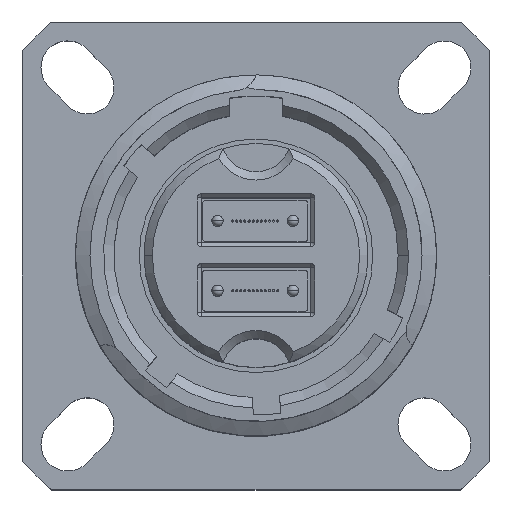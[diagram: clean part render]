
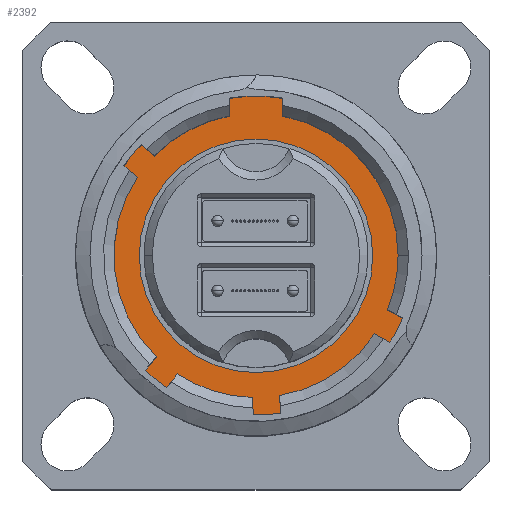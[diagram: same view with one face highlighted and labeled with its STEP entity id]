
A CAD part, top view. The second image highlights one B-rep face of the part: STEP entity #2392.
In plain terms, the highlighted planar face has unit normal (0, 0, 1).
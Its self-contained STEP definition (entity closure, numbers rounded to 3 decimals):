
#150 = DIRECTION ( 'NONE',  ( 0., 0., -1. ) ) ;
#467 = CARTESIAN_POINT ( 'NONE',  ( 0., 0., -14.554 ) ) ;
#1234 = FACE_OUTER_BOUND ( 'NONE', #3840, .T. ) ;
#2392 = ADVANCED_FACE ( 'NONE', ( #5698, #1234 ), #10131, .F. ) ;
#2578 = CARTESIAN_POINT ( 'NONE',  ( -9.881, 0., -14.554 ) ) ;
#2981 = AXIS2_PLACEMENT_3D ( 'NONE', #4611, #150, #8965 ) ;
#3054 = CIRCLE ( 'NONE', #11155, 9.881 ) ;
#3670 = EDGE_CURVE ( 'NONE', #13077, #10554, #5499, .T. ) ;
#3840 = EDGE_LOOP ( 'NONE', ( #5031, #6465 ) ) ;
#3924 = ORIENTED_EDGE ( 'NONE', *, *, #9518, .F. ) ;
#4211 = DIRECTION ( 'NONE',  ( -1., 0., 0. ) ) ;
#4611 = CARTESIAN_POINT ( 'NONE',  ( 0., 7.137, -14.554 ) ) ;
#4858 = DIRECTION ( 'NONE',  ( 1., 0., 0. ) ) ;
#5031 = ORIENTED_EDGE ( 'NONE', *, *, #11619, .T. ) ;
#5196 = DIRECTION ( 'NONE',  ( 0., 0., 1. ) ) ;
#5499 = CIRCLE ( 'NONE', #7352, 7.137 ) ;
#5698 = FACE_BOUND ( 'NONE', #14255, .T. ) ;
#6292 = DIRECTION ( 'NONE',  ( -1., 0., 0. ) ) ;
#6465 = ORIENTED_EDGE ( 'NONE', *, *, #8552, .T. ) ;
#6811 = VERTEX_POINT ( 'NONE', #10798 ) ;
#7035 = DIRECTION ( 'NONE',  ( 0., 0., 1. ) ) ;
#7352 = AXIS2_PLACEMENT_3D ( 'NONE', #13085, #8588, #11863 ) ;
#7669 = CARTESIAN_POINT ( 'NONE',  ( -7.137, 0., -14.554 ) ) ;
#8547 = CARTESIAN_POINT ( 'NONE',  ( 7.137, 0., -14.554 ) ) ;
#8552 = EDGE_CURVE ( 'NONE', #10304, #6811, #3054, .T. ) ;
#8588 = DIRECTION ( 'NONE',  ( 0., 0., 1. ) ) ;
#8965 = DIRECTION ( 'NONE',  ( -1., 0., 0. ) ) ;
#9518 = EDGE_CURVE ( 'NONE', #10554, #13077, #12859, .T. ) ;
#9576 = CARTESIAN_POINT ( 'NONE',  ( 0., 0., -14.554 ) ) ;
#9849 = AXIS2_PLACEMENT_3D ( 'NONE', #467, #7035, #4858 ) ;
#10075 = ORIENTED_EDGE ( 'NONE', *, *, #3670, .F. ) ;
#10131 = PLANE ( 'NONE',  #2981 ) ;
#10304 = VERTEX_POINT ( 'NONE', #2578 ) ;
#10554 = VERTEX_POINT ( 'NONE', #7669 ) ;
#10653 = CARTESIAN_POINT ( 'NONE',  ( 0., 0., -14.554 ) ) ;
#10798 = CARTESIAN_POINT ( 'NONE',  ( 9.881, 0., -14.554 ) ) ;
#10923 = AXIS2_PLACEMENT_3D ( 'NONE', #9576, #14002, #4211 ) ;
#11155 = AXIS2_PLACEMENT_3D ( 'NONE', #10653, #5196, #6292 ) ;
#11619 = EDGE_CURVE ( 'NONE', #6811, #10304, #14157, .T. ) ;
#11863 = DIRECTION ( 'NONE',  ( 1., 0., 0. ) ) ;
#12859 = CIRCLE ( 'NONE', #9849, 7.137 ) ;
#13077 = VERTEX_POINT ( 'NONE', #8547 ) ;
#13085 = CARTESIAN_POINT ( 'NONE',  ( 0., 0., -14.554 ) ) ;
#14002 = DIRECTION ( 'NONE',  ( 0., 0., 1. ) ) ;
#14157 = CIRCLE ( 'NONE', #10923, 9.881 ) ;
#14255 = EDGE_LOOP ( 'NONE', ( #10075, #3924 ) ) ;
